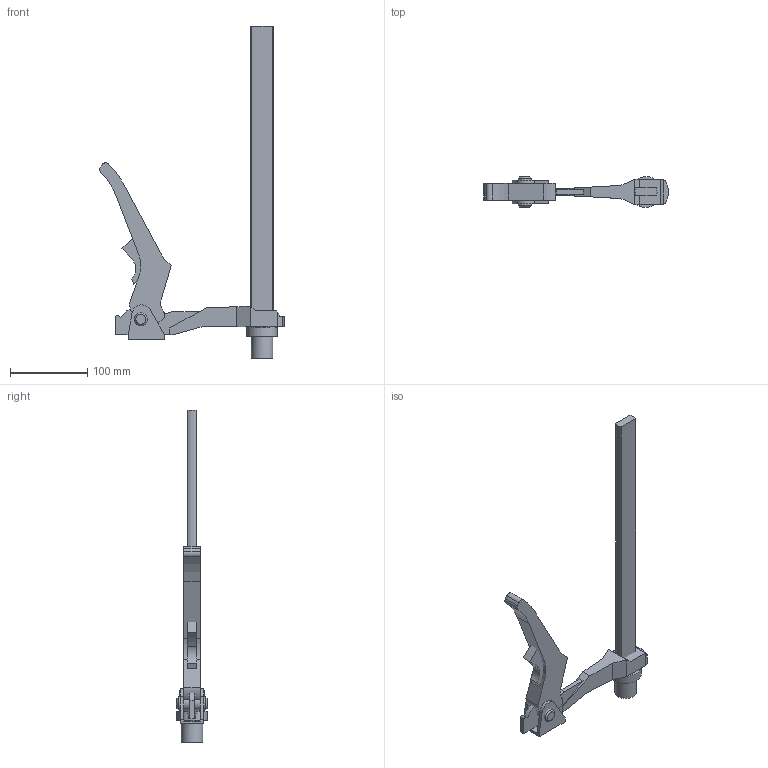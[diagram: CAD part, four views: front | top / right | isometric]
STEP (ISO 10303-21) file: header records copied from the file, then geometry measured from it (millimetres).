
FILE_DESCRIPTION( ('This file contains a STEP AP42 implementation' ,'as created by ZW3D STEP Interface translator.') ,'2;1' );
FILE_NAME( 'TW28-30-14H.stp' ,'14 4 8.145548', (''), ('ZWCAD Software Co.'), 'Version 1.0', 'ZW3D to STEP translator', '' );
FILE_SCHEMA( ('CONFIG_CONTROL_DESIGN') );
Length unit declared in the file: millimetre
Products named in the file (2): 0; 3205301 - TW28-30-14H unten
Bounding box: 239.16 x 40 x 430 mm (x, y, z)
Volume: 377829.2 mm3; surface area: 95519.4 mm2
Topology: 6 solids, 6 shells, 89 faces, 228 edges, 150 vertices
Faces by surface type: bspline 89
Entity records: 2690 total; most frequent: CARTESIAN_POINT 1219, ORIENTED_EDGE 456, EDGE_CURVE 228, B_SPLINE_CURVE_WITH_KNOTS 164, VERTEX_POINT 150, EDGE_LOOP 92, FACE_OUTER_BOUND 89, ADVANCED_FACE 89
